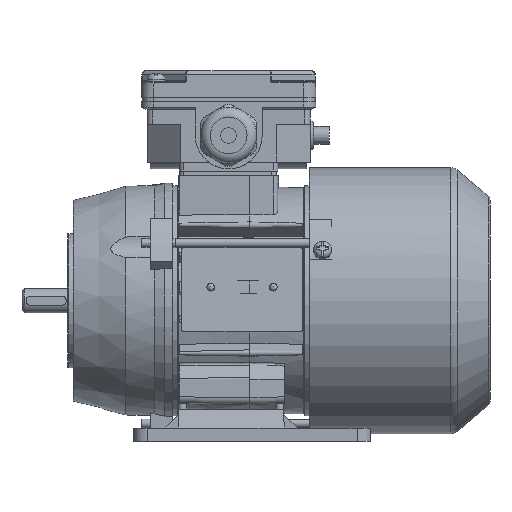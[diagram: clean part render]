
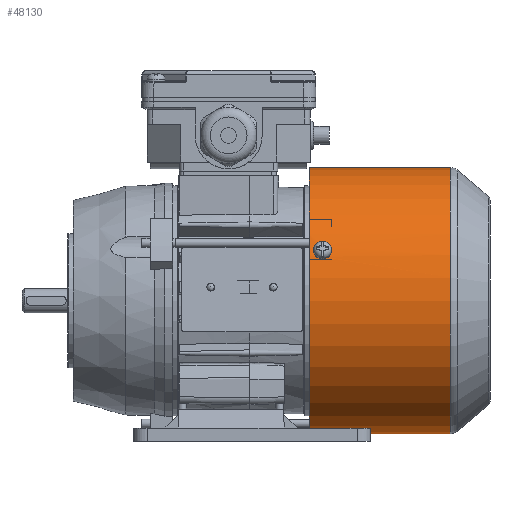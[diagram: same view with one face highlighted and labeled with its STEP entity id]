
A CAD part, front view. The second image highlights one B-rep face of the part: STEP entity #48130.
In plain terms, the highlighted cylindrical face has radius 59.6 mm (diameter 119.2 mm), a full revolution.
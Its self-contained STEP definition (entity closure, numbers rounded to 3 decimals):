
#706=B_SPLINE_CURVE_WITH_KNOTS('',3,(#64130,#64131,#64132,#64133,#64134,
#64135,#64136),.UNSPECIFIED.,.F.,.F.,(4,1,1,1,4),(0.,
0.002,0.004,0.006,0.007),
 .UNSPECIFIED.);
#707=B_SPLINE_CURVE_WITH_KNOTS('',3,(#64142,#64143,#64144,#64145,#64146,
#64147,#64148),.UNSPECIFIED.,.F.,.F.,(4,1,1,1,4),(0.,
0.002,0.004,0.006,0.007),
 .UNSPECIFIED.);
#708=B_SPLINE_CURVE_WITH_KNOTS('',3,(#64181,#64182,#64183,#64184,#64185,
#64186,#64187),.UNSPECIFIED.,.F.,.F.,(4,1,1,1,4),(0.,0.002,
0.004,0.006,0.008),
 .UNSPECIFIED.);
#709=B_SPLINE_CURVE_WITH_KNOTS('',3,(#64191,#64192,#64193,#64194,#64195,
#64196,#64197),.UNSPECIFIED.,.F.,.F.,(4,1,1,1,4),(0.,
0.002,0.004,0.006,0.008),
 .UNSPECIFIED.);
#710=B_SPLINE_CURVE_WITH_KNOTS('',3,(#64201,#64202,#64203,#64204,#64205,
#64206,#64207),.UNSPECIFIED.,.F.,.F.,(4,1,1,1,4),(0.,0.002,
0.004,0.006,0.008),
 .UNSPECIFIED.);
#711=B_SPLINE_CURVE_WITH_KNOTS('',3,(#64211,#64212,#64213,#64214,#64215,
#64216,#64217),.UNSPECIFIED.,.F.,.F.,(4,1,1,1,4),(0.,0.002,
0.004,0.006,0.008),
 .UNSPECIFIED.);
#1572=CYLINDRICAL_SURFACE('',#50177,59.6);
#7932=ORIENTED_EDGE('',*,*,#18315,.T.);
#7933=ORIENTED_EDGE('',*,*,#18316,.T.);
#7934=ORIENTED_EDGE('',*,*,#18317,.T.);
#7935=ORIENTED_EDGE('',*,*,#18318,.T.);
#7936=ORIENTED_EDGE('',*,*,#18298,.F.);
#7937=ORIENTED_EDGE('',*,*,#18301,.F.);
#7938=ORIENTED_EDGE('',*,*,#18319,.T.);
#7939=ORIENTED_EDGE('',*,*,#18320,.T.);
#7940=ORIENTED_EDGE('',*,*,#18321,.T.);
#7941=ORIENTED_EDGE('',*,*,#18322,.T.);
#7942=ORIENTED_EDGE('',*,*,#18323,.F.);
#7943=ORIENTED_EDGE('',*,*,#18324,.T.);
#18298=EDGE_CURVE('',#23524,#23525,#706,.T.);
#18301=EDGE_CURVE('',#23525,#23524,#707,.T.);
#18315=EDGE_CURVE('',#23540,#23541,#26972,.F.);
#18316=EDGE_CURVE('',#23541,#23542,#708,.T.);
#18317=EDGE_CURVE('',#23542,#23543,#26973,.F.);
#18318=EDGE_CURVE('',#23543,#23540,#709,.T.);
#18319=EDGE_CURVE('',#23544,#23545,#26974,.F.);
#18320=EDGE_CURVE('',#23545,#23546,#710,.T.);
#18321=EDGE_CURVE('',#23546,#23547,#26975,.F.);
#18322=EDGE_CURVE('',#23547,#23544,#711,.T.);
#18323=EDGE_CURVE('',#23548,#23548,#26976,.T.);
#18324=EDGE_CURVE('',#23549,#23549,#26977,.F.);
#23524=VERTEX_POINT('',#64128);
#23525=VERTEX_POINT('',#64129);
#23540=VERTEX_POINT('',#64179);
#23541=VERTEX_POINT('',#64180);
#23542=VERTEX_POINT('',#64188);
#23543=VERTEX_POINT('',#64190);
#23544=VERTEX_POINT('',#64199);
#23545=VERTEX_POINT('',#64200);
#23546=VERTEX_POINT('',#64208);
#23547=VERTEX_POINT('',#64210);
#23548=VERTEX_POINT('',#64219);
#23549=VERTEX_POINT('',#64221);
#26972=CIRCLE('',#50178,59.6);
#26973=CIRCLE('',#50179,59.6);
#26974=CIRCLE('',#50180,59.6);
#26975=CIRCLE('',#50181,59.6);
#26976=CIRCLE('',#50182,59.6);
#26977=CIRCLE('',#50183,59.6);
#28447=EDGE_LOOP('',(#7932,#7933,#7934,#7935));
#28448=EDGE_LOOP('',(#7936,#7937));
#28449=EDGE_LOOP('',(#7938,#7939,#7940,#7941));
#28450=EDGE_LOOP('',(#7942));
#28451=EDGE_LOOP('',(#7943));
#30827=FACE_BOUND('',#28447,.T.);
#30828=FACE_BOUND('',#28448,.T.);
#30829=FACE_BOUND('',#28449,.T.);
#30830=FACE_BOUND('',#28450,.T.);
#30831=FACE_BOUND('',#28451,.T.);
#48130=ADVANCED_FACE('',(#30827,#30828,#30829,#30830,#30831),#1572,.T.);
#50177=AXIS2_PLACEMENT_3D('',#64177,#54049,#54050);
#50178=AXIS2_PLACEMENT_3D('',#64178,#54051,#54052);
#50179=AXIS2_PLACEMENT_3D('',#64189,#54053,#54054);
#50180=AXIS2_PLACEMENT_3D('',#64198,#54055,#54056);
#50181=AXIS2_PLACEMENT_3D('',#64209,#54057,#54058);
#50182=AXIS2_PLACEMENT_3D('',#64218,#54059,#54060);
#50183=AXIS2_PLACEMENT_3D('',#64220,#54061,#54062);
#54049=DIRECTION('',(-1.,0.,0.));
#54050=DIRECTION('',(0.,0.,1.));
#54051=DIRECTION('',(-1.,0.,0.));
#54052=DIRECTION('',(0.,0.866,-0.5));
#54053=DIRECTION('',(1.,0.,0.));
#54054=DIRECTION('',(0.,-0.866,0.5));
#54055=DIRECTION('',(-1.,0.,0.));
#54056=DIRECTION('',(0.,0.,1.));
#54057=DIRECTION('',(1.,0.,0.));
#54058=DIRECTION('',(0.,0.,-1.));
#54059=DIRECTION('',(-1.,0.,0.));
#54060=DIRECTION('',(0.,0.,1.));
#54061=DIRECTION('',(1.,0.,0.));
#54062=DIRECTION('',(0.,0.,-1.));
#64128=CARTESIAN_POINT('',(35.,8.295,-59.02));
#64129=CARTESIAN_POINT('',(30.,8.295,-59.02));
#64130=CARTESIAN_POINT('',(35.,8.295,-59.02));
#64131=CARTESIAN_POINT('',(34.937,7.681,-59.106));
#64132=CARTESIAN_POINT('',(34.356,6.499,-59.249));
#64133=CARTESIAN_POINT('',(32.502,5.777,-59.318));
#64134=CARTESIAN_POINT('',(30.649,6.493,-59.25));
#64135=CARTESIAN_POINT('',(30.063,7.681,-59.106));
#64136=CARTESIAN_POINT('',(30.,8.295,-59.02));
#64142=CARTESIAN_POINT('',(30.,8.295,-59.02));
#64143=CARTESIAN_POINT('',(30.063,8.908,-58.934));
#64144=CARTESIAN_POINT('',(30.644,10.084,-58.746));
#64145=CARTESIAN_POINT('',(32.498,10.797,-58.613));
#64146=CARTESIAN_POINT('',(34.351,10.09,-58.745));
#64147=CARTESIAN_POINT('',(34.937,8.908,-58.934));
#64148=CARTESIAN_POINT('',(35.,8.295,-59.02));
#64177=CARTESIAN_POINT('',(-33.5,0.,0.));
#64178=CARTESIAN_POINT('',(35.,0.,0.));
#64179=CARTESIAN_POINT('',(35.,47.484,36.02));
#64180=CARTESIAN_POINT('',(35.,46.437,37.36));
#64181=CARTESIAN_POINT('',(35.,46.437,37.36));
#64182=CARTESIAN_POINT('',(35.,46.023,37.874));
#64183=CARTESIAN_POINT('',(34.458,45.191,38.867));
#64184=CARTESIAN_POINT('',(32.502,44.648,39.479));
#64185=CARTESIAN_POINT('',(30.542,45.19,38.869));
#64186=CARTESIAN_POINT('',(30.,46.023,37.874));
#64187=CARTESIAN_POINT('',(30.,46.437,37.36));
#64188=CARTESIAN_POINT('',(30.,46.437,37.36));
#64189=CARTESIAN_POINT('',(30.,0.,0.));
#64190=CARTESIAN_POINT('',(30.,47.484,36.02));
#64191=CARTESIAN_POINT('',(30.,47.484,36.02));
#64192=CARTESIAN_POINT('',(30.,47.883,35.493));
#64193=CARTESIAN_POINT('',(30.542,48.645,34.446));
#64194=CARTESIAN_POINT('',(32.498,49.108,33.771));
#64195=CARTESIAN_POINT('',(34.458,48.646,34.444));
#64196=CARTESIAN_POINT('',(35.,47.883,35.493));
#64197=CARTESIAN_POINT('',(35.,47.484,36.02));
#64198=CARTESIAN_POINT('',(35.,0.,0.));
#64199=CARTESIAN_POINT('',(35.,-54.936,23.112));
#64200=CARTESIAN_POINT('',(35.,-55.573,21.536));
#64201=CARTESIAN_POINT('',(35.,-55.573,21.536));
#64202=CARTESIAN_POINT('',(35.,-55.812,20.92));
#64203=CARTESIAN_POINT('',(34.458,-56.255,19.703));
#64204=CARTESIAN_POINT('',(32.502,-56.514,18.927));
#64205=CARTESIAN_POINT('',(30.542,-56.256,19.701));
#64206=CARTESIAN_POINT('',(30.,-55.812,20.92));
#64207=CARTESIAN_POINT('',(30.,-55.573,21.536));
#64208=CARTESIAN_POINT('',(30.,-55.573,21.536));
#64209=CARTESIAN_POINT('',(30.,0.,0.));
#64210=CARTESIAN_POINT('',(30.,-54.936,23.112));
#64211=CARTESIAN_POINT('',(30.,-54.936,23.112));
#64212=CARTESIAN_POINT('',(30.,-54.68,23.721));
#64213=CARTESIAN_POINT('',(30.542,-54.154,24.905));
#64214=CARTESIAN_POINT('',(32.498,-53.8,25.643));
#64215=CARTESIAN_POINT('',(34.458,-54.153,24.907));
#64216=CARTESIAN_POINT('',(35.,-54.68,23.721));
#64217=CARTESIAN_POINT('',(35.,-54.936,23.112));
#64218=CARTESIAN_POINT('',(26.5,0.,0.));
#64219=CARTESIAN_POINT('',(26.5,0.,59.6));
#64220=CARTESIAN_POINT('',(89.809,0.,0.));
#64221=CARTESIAN_POINT('',(89.809,0.,-59.6));
